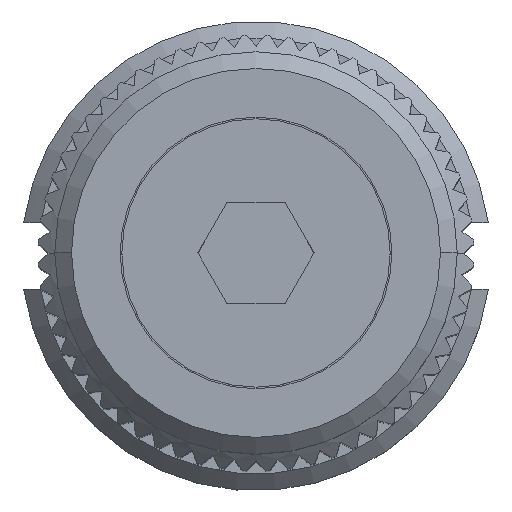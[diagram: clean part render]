
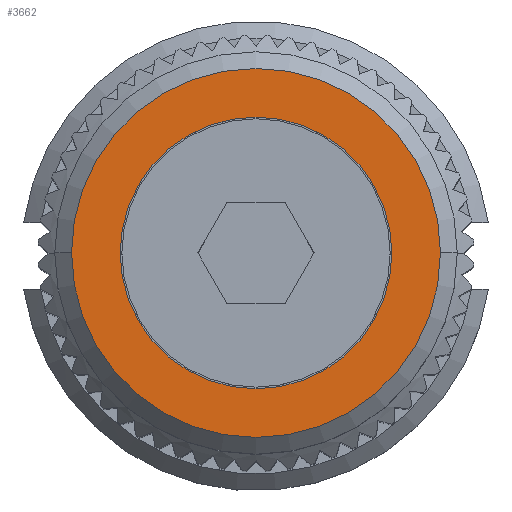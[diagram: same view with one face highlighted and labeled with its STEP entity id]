
A CAD part, top view. The second image highlights one B-rep face of the part: STEP entity #3662.
In plain terms, the highlighted planar face has unit normal (0, 0, 1).
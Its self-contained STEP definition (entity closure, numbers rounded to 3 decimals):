
#1=CARTESIAN_POINT('',(0.,0.,0.));
#2=DIRECTION('',(0.,0.,1.));
#3=DIRECTION('',(1.,0.,0.));
#4=AXIS2_PLACEMENT_3D('',#1,#2,#3);
#6=CARTESIAN_POINT('',(0.,0.,0.));
#7=DIRECTION('',(0.,0.,1.));
#8=DIRECTION('',(-1.,0.,0.));
#9=AXIS2_PLACEMENT_3D('',#6,#7,#8);
#11=CARTESIAN_POINT('',(0.,0.,0.));
#12=DIRECTION('',(0.,0.,1.));
#13=DIRECTION('',(1.,0.,0.));
#14=AXIS2_PLACEMENT_3D('',#11,#12,#13);
#16=CARTESIAN_POINT('',(0.,0.,0.));
#17=DIRECTION('',(0.,0.,1.));
#18=DIRECTION('',(-1.,0.,0.));
#19=AXIS2_PLACEMENT_3D('',#16,#17,#18);
#2993=CARTESIAN_POINT('',(4.05,0.,0.));
#2994=CARTESIAN_POINT('',(-4.05,0.,0.));
#2995=VERTEX_POINT('',#2993);
#2996=VERTEX_POINT('',#2994);
#3029=CARTESIAN_POINT('',(5.5,0.,0.));
#3030=CARTESIAN_POINT('',(-5.5,0.,0.));
#3031=VERTEX_POINT('',#3029);
#3032=VERTEX_POINT('',#3030);
#3645=CARTESIAN_POINT('',(0.,0.,0.));
#3646=DIRECTION('',(0.,0.,-1.));
#3647=DIRECTION('',(1.,0.,0.));
#3648=AXIS2_PLACEMENT_3D('',#3645,#3646,#3647);
#3649=PLANE('',#3648);
#3651=ORIENTED_EDGE('',*,*,#3650,.F.);
#3653=ORIENTED_EDGE('',*,*,#3652,.F.);
#3654=EDGE_LOOP('',(#3651,#3653));
#3655=FACE_OUTER_BOUND('',#3654,.F.);
#3657=ORIENTED_EDGE('',*,*,#3656,.T.);
#3659=ORIENTED_EDGE('',*,*,#3658,.T.);
#3660=EDGE_LOOP('',(#3657,#3659));
#3661=FACE_BOUND('',#3660,.F.);
#3662=ADVANCED_FACE('',(#3655,#3661),#3649,.F.);
#5=CIRCLE('',#4,4.05);
#10=CIRCLE('',#9,4.05);
#15=CIRCLE('',#14,5.5);
#20=CIRCLE('',#19,5.5);
#3650=EDGE_CURVE('',#3031,#3032,#15,.T.);
#3652=EDGE_CURVE('',#3032,#3031,#20,.T.);
#3656=EDGE_CURVE('',#2995,#2996,#5,.T.);
#3658=EDGE_CURVE('',#2996,#2995,#10,.T.);
